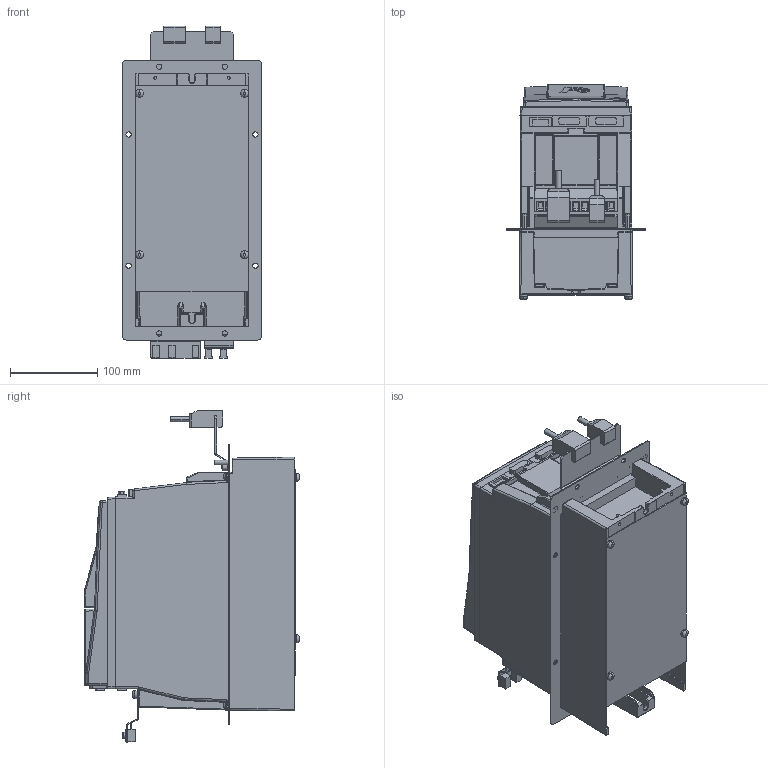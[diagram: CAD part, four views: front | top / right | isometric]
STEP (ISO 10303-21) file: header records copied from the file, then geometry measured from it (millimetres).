
FILE_DESCRIPTION (( 'STEP AP214' ), '1' );
FILE_NAME ('F6-2TR5-P051.STEP', '2020-11-30T09:07:49', ( '' ), ( '' ), 'SwSTEP 2.0', 'SolidWorks 2019', '' );
FILE_SCHEMA (( 'AUTOMOTIVE_DESIGN' ));
Length unit declared in the file: millimetre
Products named in the file (1): F6-2TR5-P051
Bounding box: 160 x 245.65 x 379.5 mm (x, y, z)
Volume: 7198590.1 mm3; surface area: 373258.9 mm2
Topology: 4 solids, 4 shells, 1580 faces, 3927 edges, 2372 vertices
Faces by surface type: plane 742, cylinder 466, bspline 229, torus 65, sphere 50, cone 28
Entity records: 54230 total; most frequent: CARTESIAN_POINT 18704, ORIENTED_EDGE 7726, DIRECTION 6832, EDGE_CURVE 3863, VERTEX_POINT 2372, AXIS2_PLACEMENT_3D 2299, VECTOR 2234, LINE 2234
